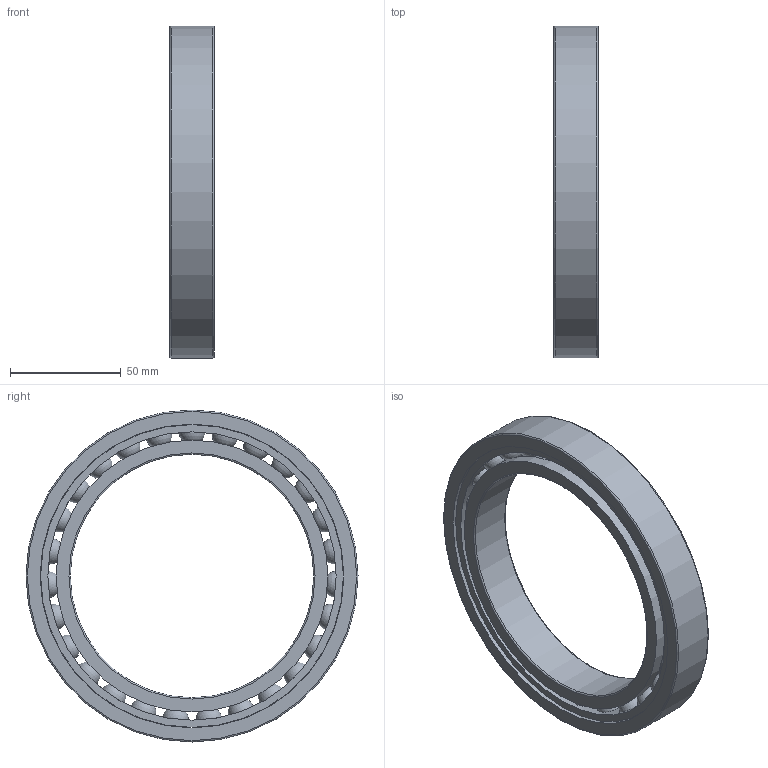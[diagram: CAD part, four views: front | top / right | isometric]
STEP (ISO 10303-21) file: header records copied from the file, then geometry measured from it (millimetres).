
FILE_DESCRIPTION(/* description */ (''),/* implementation_level */ '2;1');
FILE_NAME(/* name */ 'S_61922_TA.step',/* time_stamp */ '2013-03-06T14:48:52+01:00',/* author */ ('Marian'),/* organization */ ('GMN'),/* preprocessor_version */ 'ST-DEVELOPER v11',/* originating_system */ 'SIEMENS UGS NX 6.0',/* authorisation */ '');
FILE_SCHEMA (('CONFIG_CONTROL_DESIGN'));
Length unit declared in the file: millimetre
Products named in the file (1): S_61922_TA
Bounding box: 20 x 150 x 150 mm (x, y, z)
Volume: 121584.7 mm3; surface area: 68823.5 mm2
Topology: 30 solids, 30 shells, 74 faces, 196 edges, 128 vertices
Faces by surface type: cylinder 34, sphere 27, torus 6, plane 6, cone 1
Full cylindrical faces by diameter (mm): 12.106 x27, 110 x1, 122.8 x2, 130.246 x1, 136.8 x1, 137.2 x1, 150 x1
Entity records: 2496 total; most frequent: CARTESIAN_POINT 1168, DIRECTION 190, FACE_BOUND 175, EDGE_LOOP 148, ORIENTED_EDGE 148, VERTEX_POINT 101, AXIS2_PLACEMENT_3D 95, EDGE_CURVE 74
